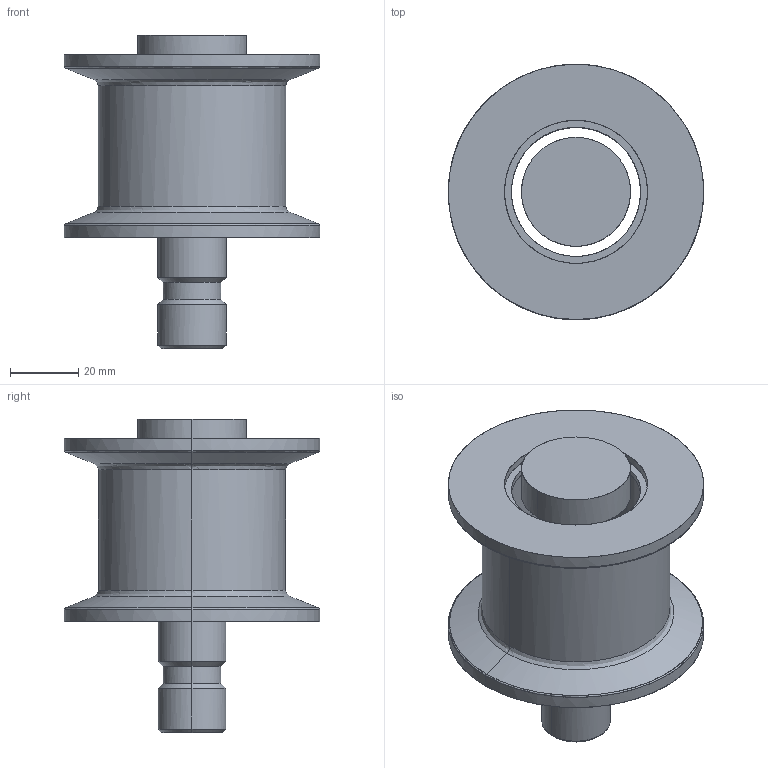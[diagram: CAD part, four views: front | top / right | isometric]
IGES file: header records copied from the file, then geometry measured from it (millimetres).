
Global section: file name: E:\UnigraphicsGraphicData\MISUMI_PRESS-PARTS\IGES\3d_gdrtbt55-38_03791_r00.igs; native system: NX V5.0; preprocessor: UGS NX IGES V5.0; author: MISUMI; date: 20110105.160708; units: millimetre
Bounding box: 75 x 75 x 92 mm (x, y, z)
Surface area: 37832.7 mm2 (no closed solid volume)
Topology: 0 solids, 0 shells, 73 faces, 744 edges, 744 vertices
Faces by surface type: bspline 73
